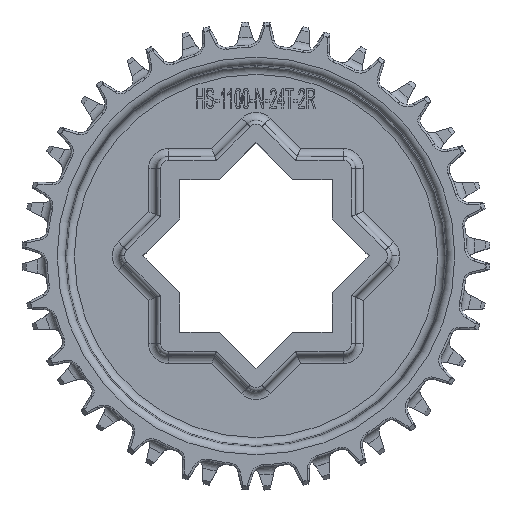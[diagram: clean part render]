
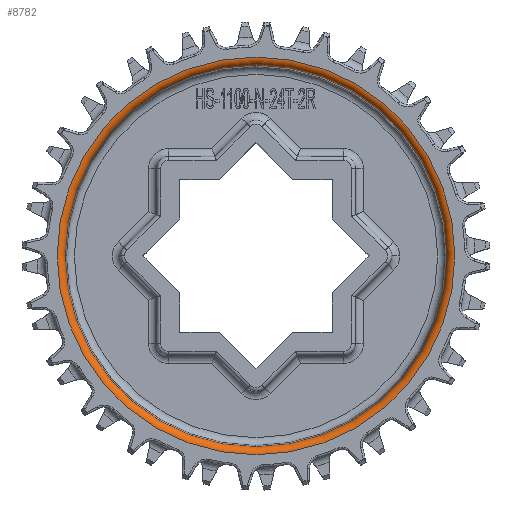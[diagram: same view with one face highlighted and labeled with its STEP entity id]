
A CAD part, top view. The second image highlights one B-rep face of the part: STEP entity #8782.
In plain terms, the highlighted toroidal (fillet/blend) face has major radius 49.989 mm and minor radius 2 mm.
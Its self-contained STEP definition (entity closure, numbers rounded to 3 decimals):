
#6318=TOROIDAL_SURFACE('',#31263,49.989,2.);
#8782=ADVANCED_FACE('',(#11441,#11442),#6318,.T.);
#9903=CIRCLE('',#29607,47.996);
#9905=CIRCLE('',#29610,47.996);
#10003=CIRCLE('',#29709,49.989);
#11441=FACE_BOUND('',#12221,.T.);
#11442=FACE_BOUND('',#12222,.T.);
#12221=EDGE_LOOP('',(#18314));
#12222=EDGE_LOOP('',(#18315,#18316));
#18314=ORIENTED_EDGE('',*,*,#23930,.F.);
#18315=ORIENTED_EDGE('',*,*,#23781,.F.);
#18316=ORIENTED_EDGE('',*,*,#23784,.F.);
#21516=VERTEX_POINT('',#40098);
#21518=VERTEX_POINT('',#40101);
#21664=VERTEX_POINT('',#40398);
#23781=EDGE_CURVE('',#21516,#21518,#9903,.T.);
#23784=EDGE_CURVE('',#21518,#21516,#9905,.T.);
#23930=EDGE_CURVE('',#21664,#21664,#10003,.T.);
#29607=AXIS2_PLACEMENT_3D('',#40100,#32800,#32801);
#29610=AXIS2_PLACEMENT_3D('',#40106,#32807,#32808);
#29709=AXIS2_PLACEMENT_3D('',#40397,#33053,#33054);
#31263=AXIS2_PLACEMENT_3D('',#51120,#36955,#36956);
#32800=DIRECTION('',(0.,0.,1.));
#32801=DIRECTION('',(-1.,0.,0.));
#32807=DIRECTION('',(0.,0.,1.));
#32808=DIRECTION('',(-1.,0.,0.));
#33053=DIRECTION('',(0.,0.,-1.));
#33054=DIRECTION('',(-1.,0.,0.));
#36955=DIRECTION('',(0.,0.,-1.));
#36956=DIRECTION('',(-1.,0.,0.));
#40098=CARTESIAN_POINT('',(-47.996,-200.,7.674));
#40100=CARTESIAN_POINT('',(0.,-200.,7.674));
#40101=CARTESIAN_POINT('',(47.996,-200.,7.674));
#40106=CARTESIAN_POINT('',(0.,-200.,7.674));
#40397=CARTESIAN_POINT('',(0.,-200.,9.5));
#40398=CARTESIAN_POINT('',(-49.989,-200.,9.5));
#51120=CARTESIAN_POINT('',(0.,-200.,7.5));
